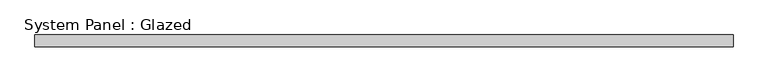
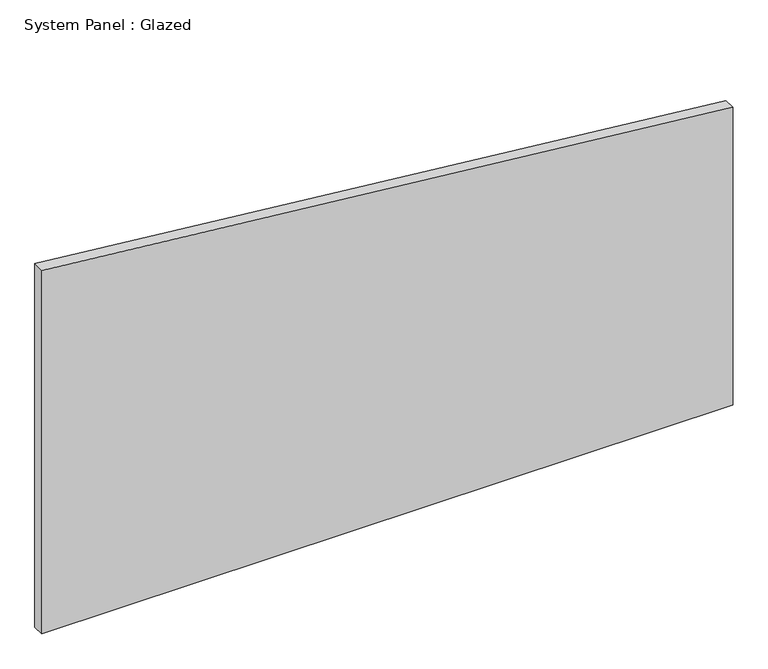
"""IFC4 building model written with IfcOpenShell, lengths in millimetres: plate geometry, System Panel : Glazed."""

import ifcopenshell
import ifcopenshell.guid

model = None  # the IFC model being written
_history = None  # IfcOwnerHistory: only IFC2X3 demands one
_inside = {}  # id of a spatial element -> (the spatial element, [elements in it])
_under = {}  # id of a project, library or spatial element -> (it, [spatial elements below it])
_declared = {}  # id of a project -> (the project, [libraries it declares])
_typed = {}  # id of a type object -> (the type object, [elements of that type])
_made_of = {}  # id of a material, layer set ... -> (it, [elements and type objects made of it])


def new_model(schema):
    """Start an empty IFC model of exactly this schema.

    Asked for "IFC4X3", IfcOpenShell would pick the latest addendum, in which some entities
    have other attributes; the version numbers below select the first issue.
    IFC2X3 requires an IfcOwnerHistory on every rooted entity: one is made here for all.
    """
    global model, _history
    if schema == "IFC4X3":
        model = ifcopenshell.file(schema_version=(4, 3, 0, 0))
    else:
        model = ifcopenshell.file(schema=schema)
    _inside.clear()
    _under.clear()
    _declared.clear()
    _typed.clear()
    _made_of.clear()
    _history = None
    if model.schema == "IFC2X3":
        org = make("IfcOrganization", Name="unknown")
        user = make(
            "IfcPersonAndOrganization",
            ThePerson=make("IfcPerson", FamilyName="unknown"),
            TheOrganization=org,
        )
        app = make(
            "IfcApplication",
            ApplicationDeveloper=org,
            Version="unknown",
            ApplicationFullName="unknown",
            ApplicationIdentifier="unknown",
        )
        _history = make(
            "IfcOwnerHistory",
            OwningUser=user,
            OwningApplication=app,
            ChangeAction="ADDED",
            CreationDate=0,
        )
    return model


def make(cls, **values):
    """One entity of the class cls with the attributes given. An attribute that is None is left unset."""
    return model.create_entity(
        cls, **{name: value for name, value in values.items() if value is not None}
    )


def rooted(cls, **values):
    """An entity with a GlobalId (a new one), such as an element, a storey or a relation."""
    return make(cls, GlobalId=ifcopenshell.guid.new(), OwnerHistory=_history, **values)


def si_unit(unit_type, name, prefix=None):
    """IfcSIUnit, for example si_unit("LENGTHUNIT", "METRE", prefix="MILLI")."""
    return make("IfcSIUnit", UnitType=unit_type, Prefix=prefix, Name=name)


def assignment(units):
    """IfcUnitAssignment: the units of a project."""
    return None if units is None else make("IfcUnitAssignment", Units=units)


def point(xyz):
    """IfcCartesianPoint."""
    return None if xyz is None else make("IfcCartesianPoint", Coordinates=xyz)


def direction(xyz):
    """IfcDirection."""
    return None if xyz is None else make("IfcDirection", DirectionRatios=xyz)


def frame(location, z_axis=None, x_axis=None):
    """IfcAxis2Placement3D, a coordinate frame: its origin and axes. An axis left out is left unset."""
    return make(
        "IfcAxis2Placement3D",
        Location=point(location),
        Axis=direction(z_axis),
        RefDirection=direction(x_axis),
    )


def origin():
    """The frame at (0, 0, 0) with its axes left unset."""
    return frame((0.0, 0.0, 0.0))


def place(relative_to, where):
    """IfcLocalPlacement: puts the frame where relative to a parent placement (None: the world)."""
    return make(
        "IfcLocalPlacement", PlacementRelTo=relative_to, RelativePlacement=where
    )


def context(
    kind, dimensions, precision=None, world=None, true_north=None, identifier=None
):
    """IfcGeometricRepresentationContext, for example the 3D "Model" context."""
    return make(
        "IfcGeometricRepresentationContext",
        ContextIdentifier=identifier,
        ContextType=kind,
        CoordinateSpaceDimension=dimensions,
        Precision=precision,
        WorldCoordinateSystem=world,
        TrueNorth=true_north,
    )


def project(units=None, contexts=None):
    """IfcProject with its units and contexts."""
    return rooted(
        "IfcProject",
        Name="project",
        RepresentationContexts=contexts,
        UnitsInContext=assignment(units),
    )


def spatial(cls, under=None, at=None, **own):
    """A site, building, storey or space (cls), placed at a placement, below another one or the project."""
    s = rooted(cls, ObjectPlacement=at, **own)
    if under is not None:
        _under.setdefault(under.id(), (under, []))[1].append(s)
    return s


def polyline(points):
    """IfcPolyline through the points."""
    return make("IfcPolyline", Points=[point(p) for p in points])


def outline(outer, holes=None, kind="AREA"):
    """IfcArbitraryClosedProfileDef: a profile drawn as a closed curve; with holes, ...WithVoids."""
    if holes is None:
        return make("IfcArbitraryClosedProfileDef", ProfileType=kind, OuterCurve=outer)
    return make(
        "IfcArbitraryProfileDefWithVoids",
        ProfileType=kind,
        OuterCurve=outer,
        InnerCurves=holes,
    )


def extrude(swept, where, along, depth):
    """IfcExtrudedAreaSolid: the profile swept, set in the frame where, extruded along a direction by depth."""
    return make(
        "IfcExtrudedAreaSolid",
        SweptArea=swept,
        Position=where,
        ExtrudedDirection=direction(along),
        Depth=depth,
    )


def shape(context_of_items, identifier, shape_type, items):
    """IfcShapeRepresentation: the items that make up one representation, for example the "Body"."""
    return make(
        "IfcShapeRepresentation",
        ContextOfItems=context_of_items,
        RepresentationIdentifier=identifier,
        RepresentationType=shape_type,
        Items=items,
    )


def source(mapping_origin, context_of_items, identifier, shape_type, items):
    """IfcRepresentationMap: a shape defined once, which mapped items show again and again."""
    return make(
        "IfcRepresentationMap",
        MappingOrigin=mapping_origin,
        MappedRepresentation=shape(context_of_items, identifier, shape_type, items),
    )


def transform(
    local_origin,
    x_axis=None,
    y_axis=None,
    z_axis=None,
    scale=None,
    scale2=None,
    scale3=None,
    uniform=True,
):
    """IfcCartesianTransformationOperator3D, or its non-uniform kind. x_axis, y_axis, z_axis: its Axis1, 2, 3."""
    if uniform:
        return make(
            "IfcCartesianTransformationOperator3D",
            Axis1=direction(x_axis),
            Axis2=direction(y_axis),
            LocalOrigin=point(local_origin),
            Scale=scale,
            Axis3=direction(z_axis),
        )
    return make(
        "IfcCartesianTransformationOperator3DnonUniform",
        Axis1=direction(x_axis),
        Axis2=direction(y_axis),
        LocalOrigin=point(local_origin),
        Scale=scale,
        Axis3=direction(z_axis),
        Scale2=scale2,
        Scale3=scale3,
    )


def mapped(mapping_source, mapping_target):
    """IfcMappedItem: shows the shape of a source again, moved by a transform."""
    return make(
        "IfcMappedItem", MappingSource=mapping_source, MappingTarget=mapping_target
    )


def made_of(thing, what):
    """Note that an element or type object is made of a material, layer set ...; save() writes the relation."""
    if what is not None:
        _made_of.setdefault(what.id(), (what, []))[1].append(thing)
    return thing


def element(
    cls,
    number,
    at=None,
    inside=None,
    cuts=None,
    type_object=None,
    material=None,
    context=None,
    identifier="Body",
    shape_type=None,
    held_by="IfcProductDefinitionShape",
    body=None,
    shapes=None,
    **own,
):
    """One element of the class cls, such as IfcWall. Its Tag is "e" and its number.

    at: its placement. inside: the storey or other place that contains it. cuts: it is an
    opening in that element (IfcRelVoidsElement). A single representation is given by context,
    identifier, shape_type and body (its items); several are given by shapes. held_by: the class
    of the entity that holds the representations. save() writes the other relations.
    """
    e = rooted(cls, Tag="e%d" % number, ObjectPlacement=at, **own)
    if body is not None:
        shapes = [shape(context, identifier, shape_type, body)]
    if shapes is not None:
        e.Representation = make(held_by, Representations=shapes)
    if inside is not None:
        _inside.setdefault(inside.id(), (inside, []))[1].append(e)
    if cuts is not None:
        rooted(
            "IfcRelVoidsElement", RelatingBuildingElement=cuts, RelatedOpeningElement=e
        )
    if type_object is not None:
        _typed.setdefault(type_object.id(), (type_object, []))[1].append(e)
    return made_of(e, material)


def aggregate(whole, parts):
    """IfcRelAggregates: a whole, such as a stair, and the parts it consists of."""
    return rooted("IfcRelAggregates", RelatingObject=whole, RelatedObjects=parts)


def save(model, path):
    """Write the relations noted so far, then the file.

    IfcRelAggregates (storeys below a building ...), IfcRelContainedInSpatialStructure (elements
    in a storey), IfcRelDefinesByType, IfcRelAssociatesMaterial and IfcRelDeclares: one each for
    every whole, place, type object, material and project.
    """
    for whole, parts in _under.values():
        aggregate(whole, parts)
    for where, things in _inside.values():
        rooted(
            "IfcRelContainedInSpatialStructure",
            RelatedElements=things,
            RelatingStructure=where,
        )
    for kind, things in _typed.values():
        rooted("IfcRelDefinesByType", RelatedObjects=things, RelatingType=kind)
    for what, things in _made_of.values():
        rooted("IfcRelAssociatesMaterial", RelatedObjects=things, RelatingMaterial=what)
    for by, libraries in _declared.values():
        rooted("IfcRelDeclares", RelatingContext=by, RelatedDefinitions=libraries)
    model.write(path)


def system_panel_glazed_ae1d22ef(model_context):
    return source(origin(), model_context, "Body", "SweptSolid", [
        extrude(outline(polyline([(0.0, -735.8695652), (0.0, 735.8695652), (670.5860517, 735.8695652), (818.5690304, -735.8695652), (0.0, -735.8695652)])), frame((0.0, 24.5, 0.0), z_axis=(0.0, 1.0, 0.0), x_axis=(0.0, 0.0, 1.0)), (0.0, 0.0, 1.0), 25.0),
    ])


if __name__ == "__main__":
    model = new_model("IFC4")
    model_context = context("Model", 3, world=origin())
    ifc_project = project(units=[si_unit("LENGTHUNIT", "METRE", prefix="MILLI")], contexts=[model_context])
    site = spatial("IfcSite", under=ifc_project)
    building = spatial("IfcBuilding", under=site)
    placement = place(None, origin())
    system_panel_glazed_shape = system_panel_glazed_ae1d22ef(model_context)
    element("IfcPlate", 1, ObjectType="System Panel : Glazed", at=placement, inside=building, context=model_context, shape_type="MappedRepresentation", body=[
        mapped(system_panel_glazed_shape, transform((0.0, 0.0, 0.0), x_axis=(1.0, 0.0, 0.0), y_axis=(0.0, 1.0, 0.0), z_axis=(0.0, 0.0, 1.0))),
    ])
    save(model, "model.ifc")
